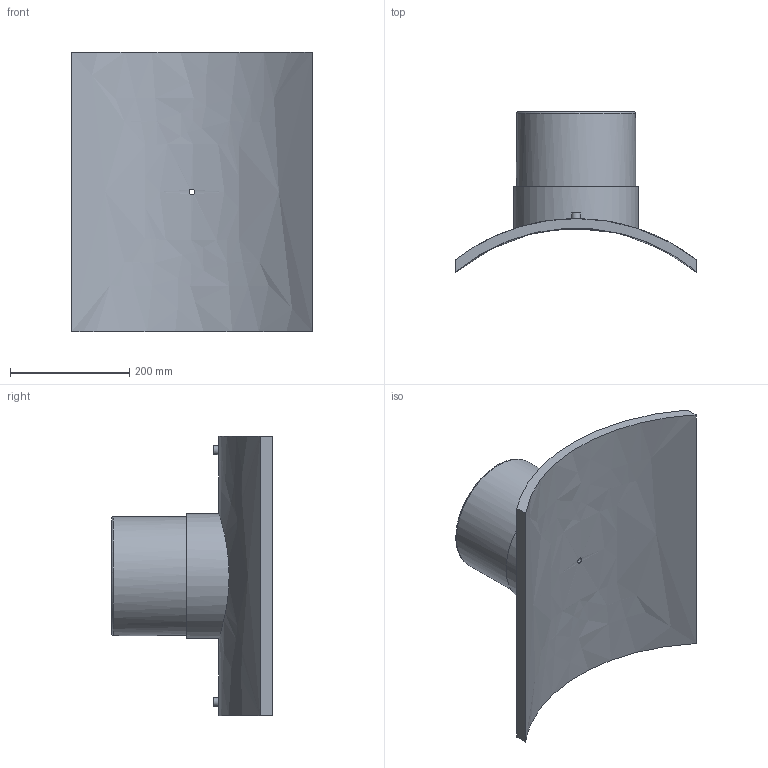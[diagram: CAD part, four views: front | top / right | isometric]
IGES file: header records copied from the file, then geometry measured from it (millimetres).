
Global section: file name: 495803630200T; native system: Autodesk Inventor 2019; preprocessor: unknown; author: KIM; date: 20240404.115326; units: millimetre
Bounding box: 405 x 269.71 x 470 mm (x, y, z)
Volume: 5608219.2 mm3; surface area: 665927.5 mm2
Topology: 1 solids, 1 shells, 29 faces, 60 edges, 43 vertices
Faces by surface type: bspline 29
